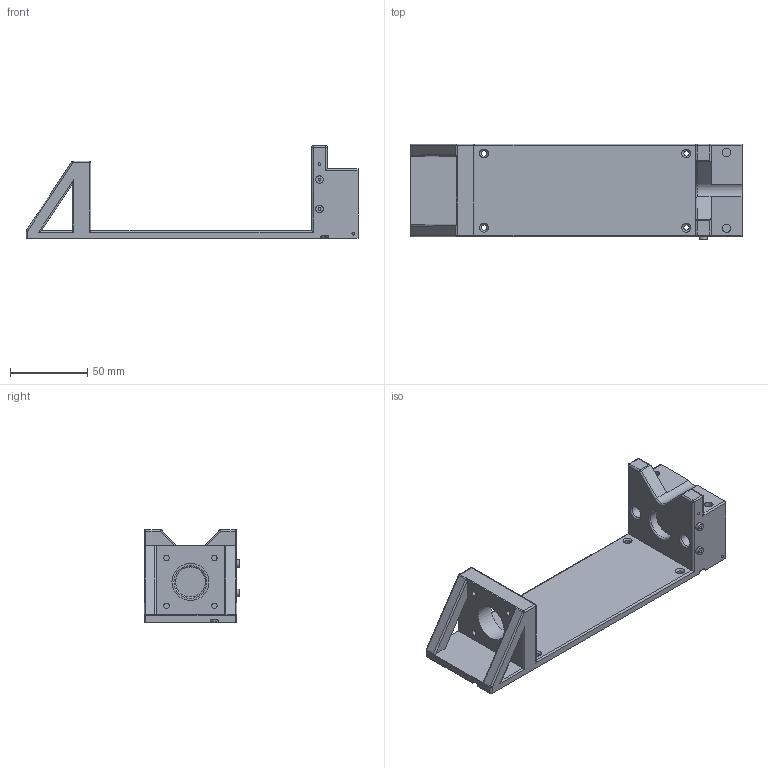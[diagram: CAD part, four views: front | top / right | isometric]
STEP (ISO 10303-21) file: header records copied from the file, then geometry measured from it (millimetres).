
FILE_DESCRIPTION(/* description */ (''),/* implementation_level */ '2;1');
FILE_NAME(/* name */ 'V:\Flow\Inventor\Spritzenpumpe\Spritzenpumpe.stp',/* time_stamp */ '2019-01-23T10:44:52+01:00',/* author */ ('JN'),/* organization */ (''),/* preprocessor_version */ 'ST-DEVELOPER v16.13',/* originating_system */ 'Autodesk Inventor 2018',/* authorisation */ '');
FILE_SCHEMA (('AUTOMOTIVE_DESIGN { 1 0 10303 214 3 1 1 }'));
Length unit declared in the file: millimetre
Products named in the file (1): Spritzenpumpe
Bounding box: 215 x 62 x 60 mm (x, y, z)
Volume: 165173.3 mm3; surface area: 49864.6 mm2
Topology: 1 solids, 1 shells, 143 faces, 323 edges, 199 vertices
Faces by surface type: cylinder 73, plane 50, sphere 10, torus 6, cone 4
Full cylindrical faces by diameter (mm): 1.8 x4, 2.8 x4, 3.5 x8, 5 x2, 5.5 x2, 6.2 x4, 8.3 x4, 19.4 x1, 24 x1
Entity records: 3867 total; most frequent: DIRECTION 722, CARTESIAN_POINT 621, ORIENTED_EDGE 564, AXIS2_PLACEMENT_3D 296, EDGE_CURVE 282, EDGE_LOOP 223, VERTEX_POINT 195, FACE_OUTER_BOUND 143
